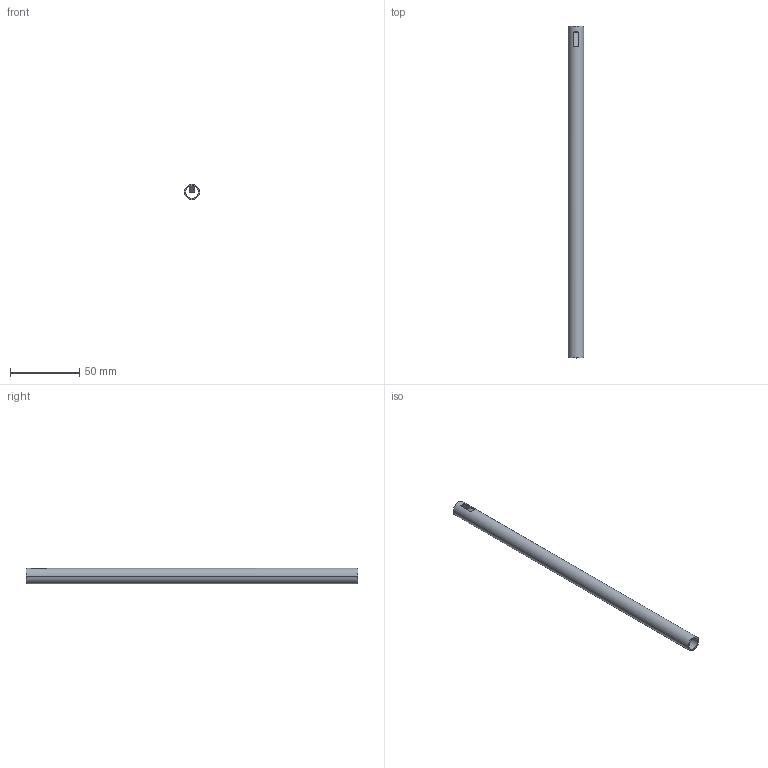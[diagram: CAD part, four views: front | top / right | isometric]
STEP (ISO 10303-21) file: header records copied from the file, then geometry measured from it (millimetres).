
FILE_DESCRIPTION (( 'STEP AP214' ), '1' );
FILE_NAME ('Relingsrohr_2S-Rundrel_Interwood_P760604300_270.step', '2010-09-07T12:59:32', ( 'grass' ), ( '' ), 'SwSTEP 2.0', 'SolidWorks 2010', '' );
FILE_SCHEMA (( 'AUTOMOTIVE_DESIGN' ));
Length unit declared in the file: millimetre
Products named in the file (1): Relingsrohr_2S-Rundrel_Interwood_P760604300_270
Bounding box: 11 x 239 x 11 mm (x, y, z)
Volume: 7506.2 mm3; surface area: 15120.1 mm2
Topology: 1 solids, 1 shells, 14 faces, 34 edges, 22 vertices
Faces by surface type: plane 10, cylinder 4
Entity records: 476 total; most frequent: CARTESIAN_POINT 77, DIRECTION 72, ORIENTED_EDGE 68, EDGE_CURVE 34, AXIS2_PLACEMENT_3D 25, VERTEX_POINT 22, LINE 22, VECTOR 22
